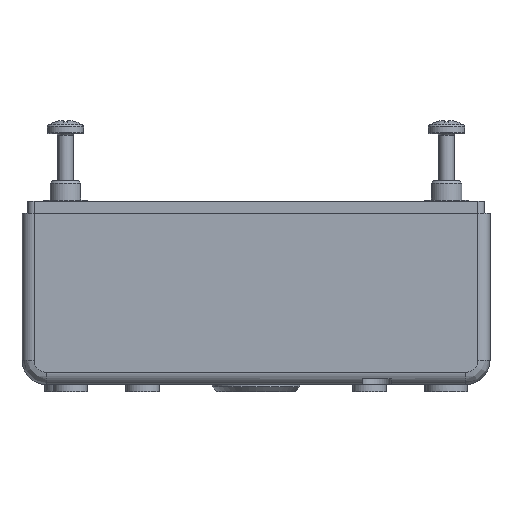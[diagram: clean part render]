
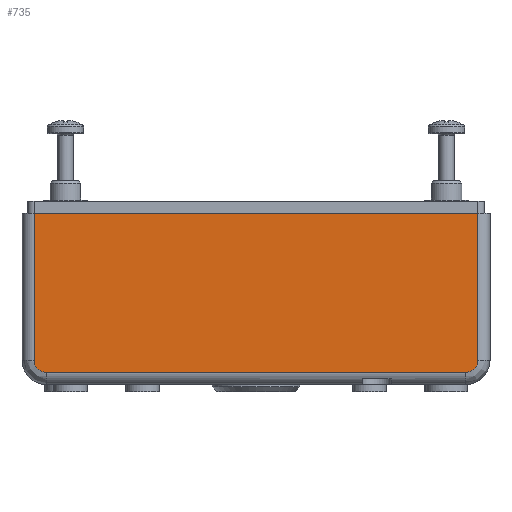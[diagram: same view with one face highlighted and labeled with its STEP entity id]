
A CAD part, left-side view. The second image highlights one B-rep face of the part: STEP entity #735.
In plain terms, the highlighted planar face has unit normal (-1, 0, 0).
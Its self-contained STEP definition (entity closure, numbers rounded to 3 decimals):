
#735=ADVANCED_FACE('',(#1437),#1103,.T.);
#1103=PLANE('',#8320);
#1437=FACE_OUTER_BOUND('',#1850,.T.);
#1850=EDGE_LOOP('',(#3533,#3534,#3535,#3536,#3537,#3538));
#2388=CIRCLE('',#8318,2.5);
#2389=CIRCLE('',#8319,2.5);
#3533=ORIENTED_EDGE('',*,*,#5966,.F.);
#3534=ORIENTED_EDGE('',*,*,#5973,.F.);
#3535=ORIENTED_EDGE('',*,*,#6092,.T.);
#3536=ORIENTED_EDGE('',*,*,#6093,.T.);
#3537=ORIENTED_EDGE('',*,*,#6094,.F.);
#3538=ORIENTED_EDGE('',*,*,#5978,.T.);
#5073=VERTEX_POINT('',#12449);
#5080=VERTEX_POINT('',#12462);
#5085=VERTEX_POINT('',#12478);
#5087=VERTEX_POINT('',#12484);
#5183=VERTEX_POINT('',#12734);
#5184=VERTEX_POINT('',#12736);
#5966=EDGE_CURVE('',#5080,#5073,#6880,.T.);
#5973=EDGE_CURVE('',#5085,#5080,#6885,.T.);
#5978=EDGE_CURVE('',#5087,#5073,#6888,.T.);
#6092=EDGE_CURVE('',#5085,#5183,#2388,.T.);
#6093=EDGE_CURVE('',#5183,#5184,#6966,.T.);
#6094=EDGE_CURVE('',#5087,#5184,#2389,.T.);
#6880=LINE('',#12463,#7566);
#6885=LINE('',#12477,#7571);
#6888=LINE('',#12487,#7574);
#6966=LINE('',#12735,#7652);
#7566=VECTOR('',#9622,1.);
#7571=VECTOR('',#9637,1.);
#7574=VECTOR('',#9646,1.);
#7652=VECTOR('',#9834,1.);
#8318=AXIS2_PLACEMENT_3D('',#12733,#9832,#9833);
#8319=AXIS2_PLACEMENT_3D('',#12737,#9835,#9836);
#8320=AXIS2_PLACEMENT_3D('',#12738,#9837,#9838);
#9622=DIRECTION('',(0.,-1.,0.));
#9637=DIRECTION('',(0.,0.,1.));
#9646=DIRECTION('',(0.,0.,1.));
#9832=DIRECTION('',(-1.,0.,0.));
#9833=DIRECTION('',(0.,0.,1.));
#9834=DIRECTION('',(0.,-1.,0.));
#9835=DIRECTION('',(1.,0.,0.));
#9836=DIRECTION('',(0.,0.,1.));
#9837=DIRECTION('',(-1.,0.,0.));
#9838=DIRECTION('',(0.,1.,0.));
#12449=CARTESIAN_POINT('',(-65.876,-45.124,35.5));
#12462=CARTESIAN_POINT('',(-65.876,46.876,35.5));
#12463=CARTESIAN_POINT('',(-65.876,46.876,35.5));
#12477=CARTESIAN_POINT('',(-65.876,46.876,5.));
#12478=CARTESIAN_POINT('',(-65.876,46.876,5.));
#12484=CARTESIAN_POINT('',(-65.876,-45.124,5.));
#12487=CARTESIAN_POINT('',(-65.876,-45.124,5.));
#12733=CARTESIAN_POINT('',(-65.876,44.376,5.));
#12734=CARTESIAN_POINT('',(-65.876,44.376,2.5));
#12735=CARTESIAN_POINT('',(-65.876,44.376,2.5));
#12736=CARTESIAN_POINT('',(-65.876,-42.624,2.5));
#12737=CARTESIAN_POINT('',(-65.876,-42.624,5.));
#12738=CARTESIAN_POINT('',(-65.876,49.376,0.));
